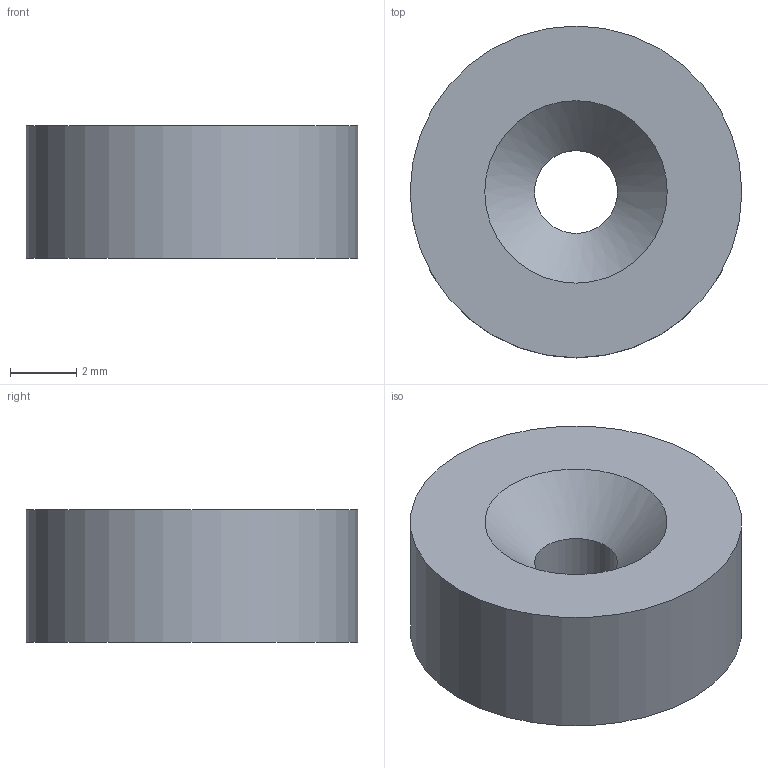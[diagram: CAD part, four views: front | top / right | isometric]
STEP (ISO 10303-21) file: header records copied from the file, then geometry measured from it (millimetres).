
FILE_DESCRIPTION((''),'2;1');
FILE_NAME('R:\Stock\3D pour clients\CELDUC references\UR102540.stp','2012-07-02T11:34:28',('Georges THOLLOT ','Tl : +33 (0)4 77 53 90 27','gthollot@celduc.com'),('Celduc r e l a i s','5, rue Ampre, BP 30004','42290 SORBIERS - France','Fax. : +33 (0)4 77 53 85 51','N siret 353 310 519 00015','ISO 9001 N QUAL/1993/1106b','www.celduc.com'),'Autodesk Inventor 2010','Autodesk Inventor 2010','');
FILE_SCHEMA(('CONFIG_CONTROL_DESIGN'));
Length unit declared in the file: millimetre
Products named in the file (1): UR10254x
Bounding box: 10 x 10 x 4 mm (x, y, z)
Volume: 282.2 mm3; surface area: 300.4 mm2
Topology: 1 solids, 1 shells, 5 faces, 9 edges, 6 vertices
Faces by surface type: bspline 2, plane 2, cylinder 1
Full cylindrical faces by diameter (mm): 10 x1
Entity records: 160 total; most frequent: CARTESIAN_POINT 50, DIRECTION 18, ORIENTED_EDGE 10, EDGE_LOOP 10, AXIS2_PLACEMENT_3D 9, VERTEX_POINT 5, CIRCLE 5, EDGE_CURVE 5
